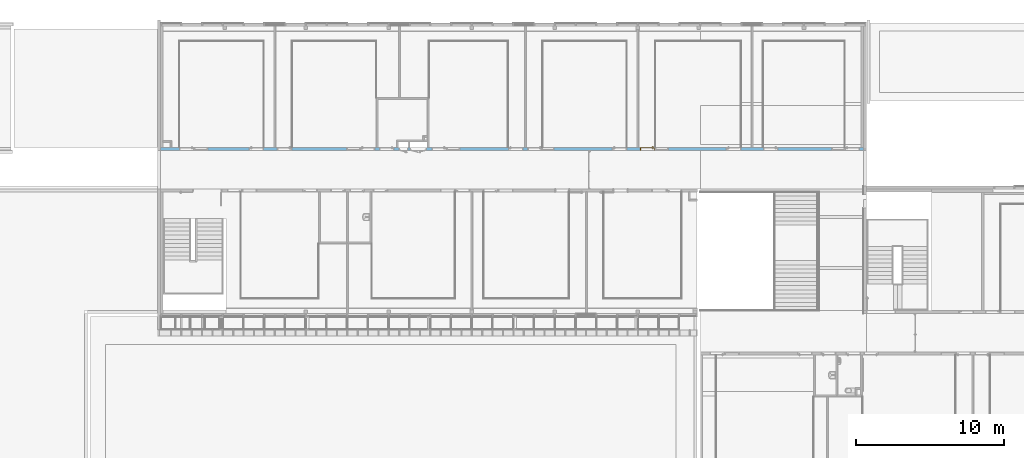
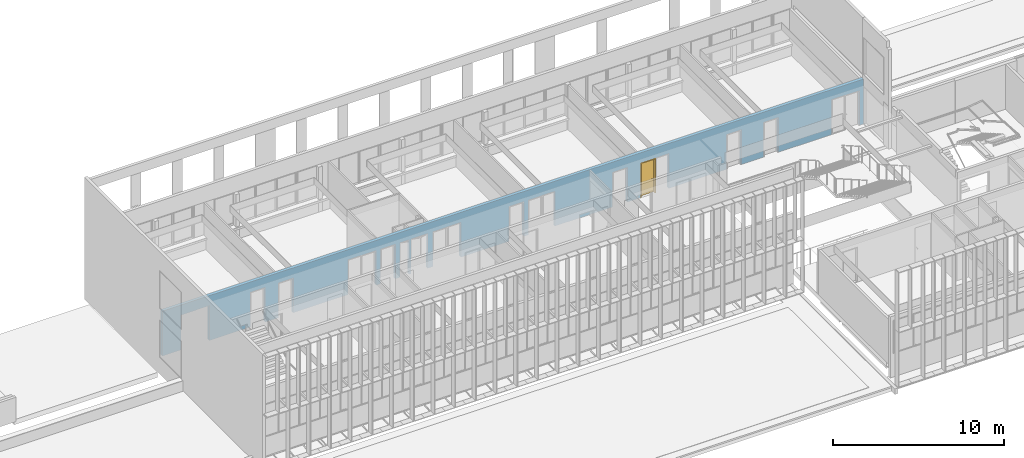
# One storey, part 57 of 106: 1 door, 21 openings, plus 1 element that does not belong to this part.
"""IFC2X3 building model written with IfcOpenShell, lengths in centimetres."""

import ifcopenshell
import ifcopenshell.guid

model = None  # the IFC model being written
_history = None  # IfcOwnerHistory: only IFC2X3 demands one
_inside = {}  # id of a spatial element -> (the spatial element, [elements in it])
_under = {}  # id of a project, library or spatial element -> (it, [spatial elements below it])
_declared = {}  # id of a project -> (the project, [libraries it declares])
_typed = {}  # id of a type object -> (the type object, [elements of that type])
_made_of = {}  # id of a material, layer set ... -> (it, [elements and type objects made of it])


def new_model(schema):
    """Start an empty IFC model of exactly this schema.

    Asked for "IFC4X3", IfcOpenShell would pick the latest addendum, in which some entities
    have other attributes; the version numbers below select the first issue.
    IFC2X3 requires an IfcOwnerHistory on every rooted entity: one is made here for all.
    """
    global model, _history
    if schema == "IFC4X3":
        model = ifcopenshell.file(schema_version=(4, 3, 0, 0))
    else:
        model = ifcopenshell.file(schema=schema)
    _inside.clear()
    _under.clear()
    _declared.clear()
    _typed.clear()
    _made_of.clear()
    _history = None
    if model.schema == "IFC2X3":
        org = make("IfcOrganization", Name="unknown")
        user = make(
            "IfcPersonAndOrganization",
            ThePerson=make("IfcPerson", FamilyName="unknown"),
            TheOrganization=org,
        )
        app = make(
            "IfcApplication",
            ApplicationDeveloper=org,
            Version="unknown",
            ApplicationFullName="unknown",
            ApplicationIdentifier="unknown",
        )
        _history = make(
            "IfcOwnerHistory",
            OwningUser=user,
            OwningApplication=app,
            ChangeAction="ADDED",
            CreationDate=0,
        )
    return model


def make(cls, **values):
    """One entity of the class cls with the attributes given. An attribute that is None is left unset."""
    return model.create_entity(
        cls, **{name: value for name, value in values.items() if value is not None}
    )


def entity(cls, *values):
    """Any entity or typed value of the class cls, its attributes in the order of the schema. None: left unset."""
    e = model.create_entity(cls)
    for i, value in enumerate(values):
        if value is not None:
            e[i] = value
    return e


def rooted(cls, **values):
    """An entity with a GlobalId (a new one), such as an element, a storey or a relation."""
    return make(cls, GlobalId=ifcopenshell.guid.new(), OwnerHistory=_history, **values)


def si_unit(unit_type, name, prefix=None):
    """IfcSIUnit, for example si_unit("LENGTHUNIT", "METRE", prefix="MILLI")."""
    return make("IfcSIUnit", UnitType=unit_type, Prefix=prefix, Name=name)


def converted_unit(unit_type, name, factor, base, dimensions=None, offset=None):
    """IfcConversionBasedUnit, such as the inch: factor (a typed value) times the base unit."""
    return make(
        "IfcConversionBasedUnit"
        if offset is None
        else "IfcConversionBasedUnitWithOffset",
        ConversionOffset=offset,
        Dimensions=None
        if dimensions is None
        else entity("IfcDimensionalExponents", *dimensions),
        UnitType=unit_type,
        Name=name,
        ConversionFactor=make(
            "IfcMeasureWithUnit", ValueComponent=factor, UnitComponent=base
        ),
    )


def derived_unit(unit_type, elements):
    """IfcDerivedUnit: a product of units, each with its exponent."""
    return make(
        "IfcDerivedUnit",
        Elements=[
            make("IfcDerivedUnitElement", Unit=unit, Exponent=power)
            for unit, power in elements
        ],
        UnitType=unit_type,
    )


def assignment(units):
    """IfcUnitAssignment: the units of a project."""
    return None if units is None else make("IfcUnitAssignment", Units=units)


def point(xyz):
    """IfcCartesianPoint."""
    return None if xyz is None else make("IfcCartesianPoint", Coordinates=xyz)


def direction(xyz):
    """IfcDirection."""
    return None if xyz is None else make("IfcDirection", DirectionRatios=xyz)


def frame(location, z_axis=None, x_axis=None):
    """IfcAxis2Placement3D, a coordinate frame: its origin and axes. An axis left out is left unset."""
    return make(
        "IfcAxis2Placement3D",
        Location=point(location),
        Axis=direction(z_axis),
        RefDirection=direction(x_axis),
    )


def frame_2d(location, x_axis=None):
    """IfcAxis2Placement2D, a coordinate frame in the plane: its origin and x axis."""
    return make(
        "IfcAxis2Placement2D", Location=point(location), RefDirection=direction(x_axis)
    )


def origin():
    """The frame at (0, 0, 0) with its axes left unset."""
    return frame((0.0, 0.0, 0.0))


def place(relative_to, where):
    """IfcLocalPlacement: puts the frame where relative to a parent placement (None: the world)."""
    return make(
        "IfcLocalPlacement", PlacementRelTo=relative_to, RelativePlacement=where
    )


def context(
    kind, dimensions, precision=None, world=None, true_north=None, identifier=None
):
    """IfcGeometricRepresentationContext, for example the 3D "Model" context."""
    return make(
        "IfcGeometricRepresentationContext",
        ContextIdentifier=identifier,
        ContextType=kind,
        CoordinateSpaceDimension=dimensions,
        Precision=precision,
        WorldCoordinateSystem=world,
        TrueNorth=true_north,
    )


def subcontext(parent, identifier, kind, view, scale=None):
    """IfcGeometricRepresentationSubContext, for example "Body" below "Model"."""
    return make(
        "IfcGeometricRepresentationSubContext",
        ContextIdentifier=identifier,
        ContextType=kind,
        ParentContext=parent,
        TargetScale=scale,
        TargetView=view,
    )


def project(units=None, contexts=None):
    """IfcProject with its units and contexts."""
    return rooted(
        "IfcProject",
        Name="project",
        RepresentationContexts=contexts,
        UnitsInContext=assignment(units),
    )


def spatial(cls, under=None, at=None, **own):
    """A site, building, storey or space (cls), placed at a placement, below another one or the project."""
    s = rooted(cls, ObjectPlacement=at, **own)
    if under is not None:
        _under.setdefault(under.id(), (under, []))[1].append(s)
    return s


def polyline(points):
    """IfcPolyline through the points."""
    return make("IfcPolyline", Points=[point(p) for p in points])


def profile(cls, at=None, kind="AREA", **sizes):
    """A parametric profile (cls). Its sizes go by their IFC names, for example OverallWidth=200.0."""
    return make(cls, ProfileType=kind, Position=at, **sizes)


def rectangle(**sizes):
    """IfcRectangleProfileDef."""
    return profile("IfcRectangleProfileDef", **sizes)


def extrude(swept, where, along, depth):
    """IfcExtrudedAreaSolid: the profile swept, set in the frame where, extruded along a direction by depth."""
    return make(
        "IfcExtrudedAreaSolid",
        SweptArea=swept,
        Position=where,
        ExtrudedDirection=direction(along),
        Depth=depth,
    )


def clip(a, b, op="DIFFERENCE"):
    """IfcBooleanClippingResult: the solid a cut by the half space b."""
    return make(
        "IfcBooleanClippingResult", Operator=op, FirstOperand=a, SecondOperand=b
    )


def bounded_halfspace(plane, agree, where, boundary):
    """IfcPolygonalBoundedHalfSpace: a half space limited to a polygon's prism."""
    return make(
        "IfcPolygonalBoundedHalfSpace",
        BaseSurface=make("IfcPlane", Position=plane),
        AgreementFlag=agree,
        Position=where,
        PolygonalBoundary=boundary,
    )


def faces_of(points, faces, orient=None, outer=None):
    """IfcFace entities. A face is a list of loops; a loop is a list of indices into points, from 0.

    orient and outer hold one flag for each loop. By default every Orientation is true, the
    first loop of a face is its IfcFaceOuterBound and the others are IfcFaceBound.
    """
    made = []
    for i, loops in enumerate(faces):
        bounds = []
        for j, loop in enumerate(loops):
            is_outer = j == 0 if outer is None else outer[i][j]
            bounds.append(
                make(
                    "IfcFaceOuterBound" if is_outer else "IfcFaceBound",
                    Bound=make("IfcPolyLoop", Polygon=[points[k] for k in loop]),
                    Orientation=True if orient is None else orient[i][j],
                )
            )
        made.append(make("IfcFace", Bounds=bounds))
    return made


def faceted_brep(points, faces, orient=None, outer=None, voids=None):
    """IfcFacetedBrep: a solid bounded by flat faces; with voids (closed shells), ...WithVoids."""
    shared = [point(p) for p in points]
    hull = make("IfcClosedShell", CfsFaces=faces_of(shared, faces, orient, outer))
    if voids is None:
        return make("IfcFacetedBrep", Outer=hull)
    return make(
        "IfcFacetedBrepWithVoids",
        Outer=hull,
        Voids=[
            make(cls, CfsFaces=faces_of(shared, fs, o, b)) for cls, fs, o, b in voids
        ],
    )


def shape(context_of_items, identifier, shape_type, items):
    """IfcShapeRepresentation: the items that make up one representation, for example the "Body"."""
    return make(
        "IfcShapeRepresentation",
        ContextOfItems=context_of_items,
        RepresentationIdentifier=identifier,
        RepresentationType=shape_type,
        Items=items,
    )


def source(mapping_origin, context_of_items, identifier, shape_type, items):
    """IfcRepresentationMap: a shape defined once, which mapped items show again and again."""
    return make(
        "IfcRepresentationMap",
        MappingOrigin=mapping_origin,
        MappedRepresentation=shape(context_of_items, identifier, shape_type, items),
    )


def transform(
    local_origin,
    x_axis=None,
    y_axis=None,
    z_axis=None,
    scale=None,
    scale2=None,
    scale3=None,
    uniform=True,
):
    """IfcCartesianTransformationOperator3D, or its non-uniform kind. x_axis, y_axis, z_axis: its Axis1, 2, 3."""
    if uniform:
        return make(
            "IfcCartesianTransformationOperator3D",
            Axis1=direction(x_axis),
            Axis2=direction(y_axis),
            LocalOrigin=point(local_origin),
            Scale=scale,
            Axis3=direction(z_axis),
        )
    return make(
        "IfcCartesianTransformationOperator3DnonUniform",
        Axis1=direction(x_axis),
        Axis2=direction(y_axis),
        LocalOrigin=point(local_origin),
        Scale=scale,
        Axis3=direction(z_axis),
        Scale2=scale2,
        Scale3=scale3,
    )


def mapped(mapping_source, mapping_target):
    """IfcMappedItem: shows the shape of a source again, moved by a transform."""
    return make(
        "IfcMappedItem", MappingSource=mapping_source, MappingTarget=mapping_target
    )


def material(Name=None, Category=None):
    """IfcMaterial."""
    return make("IfcMaterial", Name=Name, Category=Category)


def material_list(materials):
    """IfcMaterialList."""
    return make("IfcMaterialList", Materials=materials)


def layer(
    of_material, thickness, ventilated=None, Name=None, Category=None, Priority=None
):
    """IfcMaterialLayer: one layer of a wall or slab, of a material (None: an air gap)."""
    return make(
        "IfcMaterialLayer",
        Material=of_material,
        LayerThickness=thickness,
        IsVentilated=ventilated,
        Name=Name,
        Category=Category,
        Priority=Priority,
    )


def layer_set(layers, Name=None):
    """IfcMaterialLayerSet."""
    return make("IfcMaterialLayerSet", MaterialLayers=layers, LayerSetName=Name)


def layer_usage(for_layer_set, set_direction, sense, offset, extent=None):
    """IfcMaterialLayerSetUsage: how a layer set lies in its element."""
    return make(
        "IfcMaterialLayerSetUsage",
        ForLayerSet=for_layer_set,
        LayerSetDirection=set_direction,
        DirectionSense=sense,
        OffsetFromReferenceLine=offset,
        ReferenceExtent=extent,
    )


def made_of(thing, what):
    """Note that an element or type object is made of a material, layer set ...; save() writes the relation."""
    if what is not None:
        _made_of.setdefault(what.id(), (what, []))[1].append(thing)
    return thing


def type_object(cls, material=None, **own):
    """A type object (cls), such as IfcWallType, which elements share."""
    return made_of(rooted(cls, **own), material)


def type_shapes(of_type, sources):
    """Give a type object the sources (RepresentationMaps) that its elements show as mapped items."""
    of_type.RepresentationMaps = sources


def element(
    cls,
    number,
    at=None,
    inside=None,
    cuts=None,
    type_object=None,
    material=None,
    context=None,
    identifier="Body",
    shape_type=None,
    held_by="IfcProductDefinitionShape",
    body=None,
    shapes=None,
    **own,
):
    """One element of the class cls, such as IfcWall. Its Tag is "e" and its number.

    at: its placement. inside: the storey or other place that contains it. cuts: it is an
    opening in that element (IfcRelVoidsElement). A single representation is given by context,
    identifier, shape_type and body (its items); several are given by shapes. held_by: the class
    of the entity that holds the representations. save() writes the other relations.
    """
    e = rooted(cls, Tag="e%d" % number, ObjectPlacement=at, **own)
    if body is not None:
        shapes = [shape(context, identifier, shape_type, body)]
    if shapes is not None:
        e.Representation = make(held_by, Representations=shapes)
    if inside is not None:
        _inside.setdefault(inside.id(), (inside, []))[1].append(e)
    if cuts is not None:
        rooted(
            "IfcRelVoidsElement", RelatingBuildingElement=cuts, RelatedOpeningElement=e
        )
    if type_object is not None:
        _typed.setdefault(type_object.id(), (type_object, []))[1].append(e)
    return made_of(e, material)


def fill(opening, filler):
    """IfcRelFillsElement: the door or window that sits in an opening."""
    return rooted(
        "IfcRelFillsElement",
        RelatingOpeningElement=opening,
        RelatedBuildingElement=filler,
    )


def aggregate(whole, parts):
    """IfcRelAggregates: a whole, such as a stair, and the parts it consists of."""
    return rooted("IfcRelAggregates", RelatingObject=whole, RelatedObjects=parts)


def save(model, path):
    """Write the relations noted so far, then the file.

    IfcRelAggregates (storeys below a building ...), IfcRelContainedInSpatialStructure (elements
    in a storey), IfcRelDefinesByType, IfcRelAssociatesMaterial and IfcRelDeclares: one each for
    every whole, place, type object, material and project.
    """
    for whole, parts in _under.values():
        aggregate(whole, parts)
    for where, things in _inside.values():
        rooted(
            "IfcRelContainedInSpatialStructure",
            RelatedElements=things,
            RelatingStructure=where,
        )
    for kind, things in _typed.values():
        rooted("IfcRelDefinesByType", RelatedObjects=things, RelatingType=kind)
    for what, things in _made_of.values():
        rooted("IfcRelAssociatesMaterial", RelatedObjects=things, RelatingMaterial=what)
    for by, libraries in _declared.values():
        rooted("IfcRelDeclares", RelatingContext=by, RelatedDefinitions=libraries)
    model.write(path)


model = new_model("IFC2X3")

# Units and contexts
model_context = context("Model", 3, precision=0.001, world=origin(), true_north=direction((6.12303176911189e-17, 1.0)))
body_context = subcontext(model_context, "Body", "Model", "MODEL_VIEW")
ifc_project = project(units=[si_unit("LENGTHUNIT", "METRE", prefix="CENTI"), si_unit("AREAUNIT", "SQUARE_METRE"), si_unit("VOLUMEUNIT", "CUBIC_METRE"), converted_unit("PLANEANGLEUNIT", "DEGREE", entity("IfcRatioMeasure", 0.0174532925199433), si_unit("PLANEANGLEUNIT", "RADIAN"), dimensions=[0, 0, 0, 0, 0, 0, 0]), si_unit("MASSUNIT", "GRAM", prefix="KILO"), derived_unit("MASSDENSITYUNIT", [(si_unit("MASSUNIT", "GRAM", prefix="KILO"), 1), (si_unit("LENGTHUNIT", "METRE"), -3)]), si_unit("TIMEUNIT", "SECOND"), si_unit("FREQUENCYUNIT", "HERTZ"), si_unit("THERMODYNAMICTEMPERATUREUNIT", "DEGREE_CELSIUS"), derived_unit("THERMALTRANSMITTANCEUNIT", [(si_unit("MASSUNIT", "GRAM", prefix="KILO"), 1), (si_unit("THERMODYNAMICTEMPERATUREUNIT", "KELVIN"), -1), (si_unit("TIMEUNIT", "SECOND"), -3)]), derived_unit("VOLUMETRICFLOWRATEUNIT", [(si_unit("LENGTHUNIT", "METRE"), 3), (si_unit("TIMEUNIT", "SECOND"), -1)]), si_unit("ELECTRICCURRENTUNIT", "AMPERE"), si_unit("ELECTRICVOLTAGEUNIT", "VOLT"), si_unit("POWERUNIT", "WATT"), si_unit("FORCEUNIT", "NEWTON", prefix="KILO"), si_unit("ILLUMINANCEUNIT", "LUX"), si_unit("LUMINOUSFLUXUNIT", "LUMEN"), si_unit("LUMINOUSINTENSITYUNIT", "CANDELA"), derived_unit("USERDEFINED", [(si_unit("MASSUNIT", "GRAM", prefix="KILO"), -1), (si_unit("LENGTHUNIT", "METRE"), -2), (si_unit("TIMEUNIT", "SECOND"), 3), (si_unit("LUMINOUSFLUXUNIT", "LUMEN"), 1)]), derived_unit("LINEARVELOCITYUNIT", [(si_unit("LENGTHUNIT", "METRE"), 1), (si_unit("TIMEUNIT", "SECOND"), -1)]), si_unit("PRESSUREUNIT", "PASCAL"), derived_unit("USERDEFINED", [(si_unit("LENGTHUNIT", "METRE"), -2), (si_unit("MASSUNIT", "GRAM", prefix="KILO"), 1), (si_unit("TIMEUNIT", "SECOND"), -2)])], contexts=[model_context])

# Site, building, storey
site_placement = place(None, frame((-2781.94577612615, 7442.24238424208, 0.0)))
site = spatial("IfcSite", under=ifc_project, at=site_placement, Name="Default", CompositionType="ELEMENT")
building_placement = place(site_placement, origin())
building = spatial("IfcBuilding", under=site, at=building_placement, CompositionType="ELEMENT")
storey_placement = place(building_placement, frame((0.0, 0.0, 422.0)))
storey = spatial("IfcBuildingStorey", under=building, at=storey_placement, Name="Toiture - Cuisine", CompositionType="ELEMENT", Elevation=421.999999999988)

# Wall, openings, door
ifc_material_1 = material(Name="01 - Maçonnerie")
ifc_layer = layer(ifc_material_1, 20.0)
ifc_layer_set = layer_set([ifc_layer], Name="Mur de base:04 - Structure - béton - 20cm")
ifc_layer_usage = layer_usage(ifc_layer_set, "AXIS2", "NEGATIVE", 10.0)
wall_type = type_object("IfcWallType", Name="Mur de base:04 - Structure - béton - 20cm", PredefinedType="STANDARD", material=ifc_layer_set)
wall_placement = place(building_placement, frame((-8409.49987766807, -820.048500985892, 422.0)))
wall = element("IfcWallStandardCase", 1, at=wall_placement, inside=storey, type_object=wall_type, material=ifc_layer_usage, Name="Mur de base:04 - Structure - béton - 20cm", ObjectType="Mur de base:04 - Structure - béton - 20cm", context=body_context, shape_type="Clipping", body=[
    clip(extrude(rectangle(XDim=4741.49999798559, YDim=20.0, at=frame_2d((2370.74999899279, 2.04281036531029e-14), x_axis=(-1.0, 0.0))), origin(), (0.0, 0.0, 1.0), 321.0), bounded_halfspace(frame((4741.49999798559, -10.0, 321.0), z_axis=(0.0, 0.0, -1.0), x_axis=(0.0, 1.0, 0.0)), True, frame((4741.49999798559, -10.0, 321.0)), polyline([(0.0, 0.0), (0.0, 20.0), (-15.3000000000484, 20.0), (-125.300000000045, 20.0), (-127.300000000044, 20.0), (-675.800000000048, 20.0), (-677.800000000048, 20.0), (-745.800000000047, 20.0), (-755.800000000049, 20.0), (-825.800000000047, 20.0), (-827.800000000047, 20.0), (-1403.80000000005, 20.0), (-1405.80000000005, 20.0), (-1516.49999791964, 20.0), (-1526.49999791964, 20.0), (-1595.78709704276, 20.0), (-1597.78709704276, 20.0), (-2163.80000000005, 20.0), (-2165.80000000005, 20.0), (-2275.80000000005, 20.0), (-2285.80000000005, 20.0), (-2395.80000000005, 20.0), (-2397.80000000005, 20.0), (-2931.80000000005, 20.0), (-2941.80000000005, 20.0), (-3060.80000000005, 20.0), (-3070.80000000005, 20.0), (-3137.80000000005, 20.0), (-3147.80000000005, 20.0), (-3275.80000000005, 20.0), (-3285.80000000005, 20.0), (-3416.49999791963, 20.0), (-3535.80000000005, 20.0), (-3545.80000000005, 20.0), (-3611.80000000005, 20.0), (-3853.80000000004, 20.0), (-3855.80000000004, 20.0), (-3965.80000000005, 20.0), (-3975.80000000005, 20.0), (-4044.30000000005, 20.0), (-4046.30000000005, 20.0), (-4614.19999798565, 20.0), (-4616.19999798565, 20.0), (-4666.19999798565, 20.0), (-4676.19999798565, 20.0), (-4726.19999798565, 20.0), (-4741.49999798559, 20.0), (-4741.49999798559, 0.0), (-1854.0, 0.0), (-1844.0, 0.0), (-1840.0, 0.0), (0.0, 0.0)]))),
])
opening_1_placement = place(wall_placement, frame((1669.50000006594, 10.0, 0.0)))
element("IfcOpeningElement", 2, at=opening_1_placement, cuts=wall, Name="Int. Simple:PP Placard (0.55m x 2.50m):1", ObjectType="Opening", context=body_context, shape_type="SweptSolid", body=[
    extrude(rectangle(XDim=248.500000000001, YDim=61.9999999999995, at=frame_2d((124.250000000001, 30.9999999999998), x_axis=(1.0, 0.0))), frame((0.0, 0.0, 0.0), z_axis=(0.0, -1.0, 0.0), x_axis=(0.0, 0.0, 1.0)), (0.0, 0.0, 1.0), 20.0),
])
opening_2_placement = place(wall_placement, frame((1794.50000006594, 10.0, 0.0)))
element("IfcOpeningElement", 3, at=opening_2_placement, cuts=wall, Name="Int. Double:PP Placard (1.05m x 2.50m):1", ObjectType="Opening", context=body_context, shape_type="SweptSolid", body=[
    extrude(rectangle(XDim=248.500000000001, YDim=112.0, at=frame_2d((124.250000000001, 56.0000000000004), x_axis=(1.0, 0.0))), frame((0.0, 0.0, 0.0), z_axis=(0.0, -1.0, 0.0), x_axis=(0.0, 0.0, 1.0)), (0.0, 0.0, 1.0), 20.0),
])
opening_3_placement = place(wall_placement, frame((126.799999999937, -10.0, 0.0)))
element("IfcOpeningElement", 4, at=opening_3_placement, cuts=wall, Name="Int. Simple:PV (0.93m x 2.50m):1", ObjectType="Opening", context=body_context, shape_type="SweptSolid", body=[
    extrude(rectangle(XDim=248.500000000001, YDim=99.9999999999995, at=frame_2d((124.250000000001, 50.0), x_axis=(1.0, 0.0))), frame((0.0, 0.0, 0.0), z_axis=(0.0, 1.0, 0.0), x_axis=(0.0, 0.0, 1.0)), (0.0, 0.0, 1.0), 20.0),
])
opening_4_placement = place(wall_placement, frame((595.699997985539, -10.0, 0.0)))
element("IfcOpeningElement", 5, at=opening_4_placement, cuts=wall, Name="Int. Simple:PV (0.93m x 2.50m):1", ObjectType="Opening", context=body_context, shape_type="SweptSolid", body=[
    extrude(rectangle(XDim=248.500000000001, YDim=99.9999999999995, at=frame_2d((124.250000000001, 49.9999999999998), x_axis=(1.0, 0.0))), frame((0.0, 0.0, 0.0), z_axis=(0.0, 1.0, 0.0), x_axis=(0.0, 0.0, 1.0)), (0.0, 0.0, 1.0), 20.0),
])
opening_5_placement = place(wall_placement, frame((785.699997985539, -10.0, 0.0)))
element("IfcOpeningElement", 6, at=opening_5_placement, cuts=wall, Name="Int. Simple:PV (0.93m x 2.50m):1", ObjectType="Opening", context=body_context, shape_type="SweptSolid", body=[
    extrude(rectangle(XDim=248.500000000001, YDim=99.9999999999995, at=frame_2d((124.250000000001, 50.0), x_axis=(1.0, 0.0))), frame((0.0, 0.0, 0.0), z_axis=(0.0, 1.0, 0.0), x_axis=(0.0, 0.0, 1.0)), (0.0, 0.0, 1.0), 20.0),
])
opening_6_placement = place(wall_placement, frame((1345.69999798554, -10.0, 0.0)))
element("IfcOpeningElement", 7, at=opening_6_placement, cuts=wall, Name="Int. Simple:PV (0.93m x 2.50m):1", ObjectType="Opening", context=body_context, shape_type="SweptSolid", body=[
    extrude(rectangle(XDim=248.500000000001, YDim=99.9999999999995, at=frame_2d((124.250000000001, 49.9999999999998), x_axis=(1.0, 0.0))), frame((0.0, 0.0, 0.0), z_axis=(0.0, 1.0, 0.0), x_axis=(0.0, 0.0, 1.0)), (0.0, 0.0, 1.0), 20.0),
])
opening_7_placement = place(wall_placement, frame((1475.69999798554, -10.0, 0.0)))
element("IfcOpeningElement", 8, at=opening_7_placement, cuts=wall, Name="Int. Simple:PP simple (0.93m x 2.50m):1", ObjectType="Opening", context=body_context, shape_type="SweptSolid", body=[
    extrude(rectangle(XDim=248.500000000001, YDim=99.9999999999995, at=frame_2d((124.250000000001, 50.0), x_axis=(1.0, 0.0))), frame((0.0, 0.0, 0.0), z_axis=(0.0, 1.0, 0.0), x_axis=(0.0, 0.0, 1.0)), (0.0, 0.0, 1.0), 20.0),
])
opening_8_placement = place(wall_placement, frame((1829.69999798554, -10.0, 0.0)))
element("IfcOpeningElement", 9, at=opening_8_placement, cuts=wall, Name="Int. Simple:PV (0.93m x 2.50m):1", ObjectType="Opening", context=body_context, shape_type="SweptSolid", body=[
    extrude(rectangle(XDim=248.500000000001, YDim=99.9999999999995, at=frame_2d((124.250000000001, 50.0), x_axis=(1.0, 0.0))), frame((0.0, 0.0, 0.0), z_axis=(0.0, 1.0, 0.0), x_axis=(0.0, 0.0, 1.0)), (0.0, 0.0, 1.0), 20.0),
])
opening_9_placement = place(wall_placement, frame((2345.69999798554, -10.0, 0.0)))
element("IfcOpeningElement", 10, at=opening_9_placement, cuts=wall, Name="Int. Simple:PV (0.93m x 2.50m):1", ObjectType="Opening", context=body_context, shape_type="SweptSolid", body=[
    extrude(rectangle(XDim=248.500000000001, YDim=99.9999999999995, at=frame_2d((124.250000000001, 49.9999999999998), x_axis=(1.0, 0.0))), frame((0.0, 0.0, 0.0), z_axis=(0.0, 1.0, 0.0), x_axis=(0.0, 0.0, 1.0)), (0.0, 0.0, 1.0), 20.0),
])
opening_10_placement = place(wall_placement, frame((2475.69999798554, -10.0, 0.0)))
element("IfcOpeningElement", 11, at=opening_10_placement, cuts=wall, Name="Int. Simple:PV (0.93m x 2.50m):1", ObjectType="Opening", context=body_context, shape_type="SweptSolid", body=[
    extrude(rectangle(XDim=248.500000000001, YDim=99.9999999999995, at=frame_2d((124.250000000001, 50.0), x_axis=(1.0, 0.0))), frame((0.0, 0.0, 0.0), z_axis=(0.0, 1.0, 0.0), x_axis=(0.0, 0.0, 1.0)), (0.0, 0.0, 1.0), 20.0),
])
opening_11_placement = place(wall_placement, frame((3045.69999798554, -10.0, 0.0)))
element("IfcOpeningElement", 12, at=opening_11_placement, cuts=wall, Name="Int. Simple:PV (0.93m x 2.50m):1", ObjectType="Opening", context=body_context, shape_type="SweptSolid", body=[
    extrude(rectangle(XDim=248.500000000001, YDim=99.9999999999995, at=frame_2d((124.250000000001, 49.9999999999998), x_axis=(1.0, 0.0))), frame((0.0, 0.0, 0.0), z_axis=(0.0, 1.0, 0.0), x_axis=(0.0, 0.0, 1.0)), (0.0, 0.0, 1.0), 20.0),
])
opening_12_placement = place(wall_placement, frame((3235.69999798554, -10.0, 0.0)))
opening_12 = element("IfcOpeningElement", 13, at=opening_12_placement, cuts=wall, Name="Int. Simple:PV (0.93m x 2.50m):1", ObjectType="Opening", context=body_context, shape_type="SweptSolid", body=[
    extrude(rectangle(XDim=248.500000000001, YDim=99.9999999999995, at=frame_2d((124.250000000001, 50.0), x_axis=(1.0, 0.0))), frame((0.0, 0.0, 0.0), z_axis=(0.0, 1.0, 0.0), x_axis=(0.0, 0.0, 1.0)), (0.0, 0.0, 1.0), 20.0),
])
opening_13_placement = place(wall_placement, frame((3815.69999798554, -10.0, 0.0)))
element("IfcOpeningElement", 14, at=opening_13_placement, cuts=wall, Name="Int. Simple:PV (0.93m x 2.50m):1", ObjectType="Opening", context=body_context, shape_type="SweptSolid", body=[
    extrude(rectangle(XDim=248.500000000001, YDim=99.9999999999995, at=frame_2d((124.250000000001, 49.9999999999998), x_axis=(1.0, 0.0))), frame((0.0, 0.0, 0.0), z_axis=(0.0, 1.0, 0.0), x_axis=(0.0, 0.0, 1.0)), (0.0, 0.0, 1.0), 20.0),
])
opening_14_placement = place(wall_placement, frame((4065.69999798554, -10.0, 0.0)))
element("IfcOpeningElement", 15, at=opening_14_placement, cuts=wall, Name="Int. Simple:PV (0.93m x 2.50m):1", ObjectType="Opening", context=body_context, shape_type="SweptSolid", body=[
    extrude(rectangle(XDim=248.500000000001, YDim=99.9999999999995, at=frame_2d((124.250000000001, 50.0), x_axis=(1.0, 0.0))), frame((0.0, 0.0, 0.0), z_axis=(0.0, 1.0, 0.0), x_axis=(0.0, 0.0, 1.0)), (0.0, 0.0, 1.0), 20.0),
])
opening_15_placement = place(wall_placement, frame((4616.19999798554, -10.0, 0.0)))
element("IfcOpeningElement", 16, at=opening_15_placement, cuts=wall, Name="Int. Simple:PV (0.93m x 2.50m):1", ObjectType="Opening", context=body_context, shape_type="SweptSolid", body=[
    extrude(rectangle(XDim=248.500000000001, YDim=99.9999999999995, at=frame_2d((124.250000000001, 49.9999999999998), x_axis=(1.0, 0.0))), frame((0.0, 0.0, 0.0), z_axis=(0.0, 1.0, 0.0), x_axis=(0.0, 0.0, 1.0)), (0.0, 0.0, 1.0), 20.0),
])
opening_16_placement = place(wall_placement, frame((1255.69999798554, -10.0, 0.0)))
element("IfcOpeningElement", 17, at=opening_16_placement, cuts=wall, Name="châssis intérieur vitré:châssis intérieur vitré (h=270) R+1:1", ObjectType="Opening", context=body_context, shape_type="SweptSolid", body=[
    extrude(rectangle(XDim=250.0, YDim=89.9999999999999, at=frame_2d((125.0, 45.0), x_axis=(1.0, 0.0))), frame((0.0, 0.0, 0.0), z_axis=(0.0, 1.0, 0.0), x_axis=(0.0, 0.0, 1.0)), (0.0, 0.0, 1.0), 20.0),
])
opening_17_placement = place(wall_placement, frame((1929.69999798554, -10.0, 0.0)))
element("IfcOpeningElement", 18, at=opening_17_placement, cuts=wall, Name="châssis intérieur vitré:châssis intérieur vitré (h=270) R+1:1", ObjectType="Opening", context=body_context, shape_type="SweptSolid", body=[
    extrude(rectangle(XDim=250.0, YDim=89.9999999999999, at=frame_2d((125.0, 45.0), x_axis=(1.0, 0.0))), frame((0.0, 0.0, 0.0), z_axis=(0.0, 1.0, 0.0), x_axis=(0.0, 0.0, 1.0)), (0.0, 0.0, 1.0), 20.0),
])
opening_18_placement = place(wall_placement, frame((4526.19999798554, -10.0, 0.0)))
element("IfcOpeningElement", 19, at=opening_18_placement, cuts=wall, Name="châssis intérieur vitré:châssis intérieur vitré (h=270) R+1:1", ObjectType="Opening", context=body_context, shape_type="SweptSolid", body=[
    extrude(rectangle(XDim=250.0, YDim=89.9999999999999, at=frame_2d((125.0, 45.0000000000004), x_axis=(1.0, 0.0))), frame((0.0, 0.0, 0.0), z_axis=(0.0, 1.0, 0.0), x_axis=(0.0, 0.0, 1.0)), (0.0, 0.0, 1.0), 20.0),
])
opening_19_placement = place(wall_placement, frame((3335.69999798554, -10.0, 0.0)))
element("IfcOpeningElement", 20, at=opening_19_placement, cuts=wall, Name="châssis intérieur vitré:châssis intérieur vitré (h=270) R+1:1", ObjectType="Opening", context=body_context, shape_type="SweptSolid", body=[
    extrude(rectangle(XDim=250.0, YDim=89.9999999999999, at=frame_2d((125.0, 45.0000000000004), x_axis=(1.0, 0.0))), frame((0.0, 0.0, 0.0), z_axis=(0.0, 1.0, 0.0), x_axis=(0.0, 0.0, 1.0)), (0.0, 0.0, 1.0), 20.0),
])
opening_20_placement = place(wall_placement, frame((2565.69999798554, -10.0, 0.0)))
element("IfcOpeningElement", 21, at=opening_20_placement, cuts=wall, Name="châssis intérieur vitré:châssis intérieur vitré (h=270) R+1:1", ObjectType="Opening", context=body_context, shape_type="SweptSolid", body=[
    extrude(rectangle(XDim=250.0, YDim=89.9999999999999, at=frame_2d((125.0, 45.0000000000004), x_axis=(1.0, 0.0))), frame((0.0, 0.0, 0.0), z_axis=(0.0, 1.0, 0.0), x_axis=(0.0, 0.0, 1.0)), (0.0, 0.0, 1.0), 20.0),
])
opening_21_placement = place(wall_placement, frame((226.799999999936, -10.0, 0.0)))
element("IfcOpeningElement", 22, at=opening_21_placement, cuts=wall, Name="châssis intérieur vitré:châssis intérieur vitré (h=270) R+1:1", ObjectType="Opening", context=body_context, shape_type="SweptSolid", body=[
    extrude(rectangle(XDim=250.0, YDim=91.4999999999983, at=frame_2d((125.0, 45.7499999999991), x_axis=(1.0, 0.0))), frame((0.0, 0.0, 0.0), z_axis=(0.0, 1.0, 0.0), x_axis=(0.0, 0.0, 1.0)), (0.0, 0.0, 1.0), 20.0),
])
ifc_material_2 = material(Name="Finition Peinture - Blanc satiné")
ifc_material_3 = material(Name="Bois - Panneau de porte")
ifc_material_4 = material(Name="Bois - Cadre de porte")
ifc_material_list_1 = material_list([ifc_material_2, ifc_material_3, ifc_material_4])
ifc_material_list_2 = material_list([ifc_material_2, ifc_material_3, ifc_material_4])
door_style = type_object("IfcDoorStyle", Name="PV (0.93m x 2.50m)", ConstructionType="NOTDEFINED", OperationType="SINGLE_SWING_LEFT", ParameterTakesPrecedence=False, Sizeable=False, material=ifc_material_list_2)
shared_shape = source(origin(), body_context, "Body", "Brep", [
    faceted_brep([(10.5352761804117, -0.500000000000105, 86.6003983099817), (11.5000000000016, -0.500000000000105, 87.0), (11.5000000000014, -0.500000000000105, 108.0), (10.5352761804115, -0.500000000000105, 108.399601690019), (9.50000000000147, -0.500000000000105, 108.535898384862), (8.46472381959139, -0.500000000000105, 108.399601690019), (7.50000000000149, -0.500000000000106, 108.0), (7.50000000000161, -0.500000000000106, 87.0), (8.46472381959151, -0.500000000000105, 86.6003983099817), (9.50000000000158, -0.500000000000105, 86.464101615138), (10.5352761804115, 0.0, 108.399601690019), (11.5000000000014, 0.0, 108.0), (11.5000000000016, 0.0, 87.0), (10.5352761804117, 0.0, 86.6003983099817), (9.50000000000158, 0.0, 86.464101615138), (8.46472381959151, 0.0, 86.6003983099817), (7.50000000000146, 0.0, 87.0), (7.50000000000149, 0.0, 108.0), (8.46472381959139, 0.0, 108.399601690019), (9.50000000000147, 0.0, 108.535898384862)], [[[0, 1, 2, 3, 4, 5, 6, 7, 8, 9]], [[10, 11, 12, 13, 14, 15, 16, 17, 18, 19]], [[16, 15, 8, 7]], [[8, 15, 14, 9]], [[14, 13, 0, 9]], [[13, 12, 1, 0]], [[2, 1, 12, 11]], [[11, 10, 3, 2]], [[3, 10, 19, 4]], [[19, 18, 5, 4]], [[18, 17, 6, 5]], [[7, 6, 17, 16]]]),
    faceted_brep([(10.5352761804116, 4.0, 86.6003983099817), (11.5000000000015, 4.0, 87.0), (11.5000000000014, 4.0, 108.0), (10.5352761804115, 4.0, 108.399601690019), (9.50000000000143, 4.0, 108.535898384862), (8.46472381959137, 4.0, 108.399601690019), (7.50000000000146, 4.0, 108.0), (7.50000000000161, 4.0, 87.0), (8.46472381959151, 4.0, 86.6003983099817), (9.50000000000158, 4.0, 86.464101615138), (10.5352761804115, 4.49999999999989, 108.399601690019), (11.5000000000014, 4.49999999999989, 108.0), (11.5000000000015, 4.49999999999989, 87.0), (10.5352761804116, 4.49999999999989, 86.6003983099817), (9.50000000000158, 4.49999999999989, 86.464101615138), (8.46472381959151, 4.49999999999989, 86.6003983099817), (7.50000000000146, 4.49999999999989, 87.0), (7.50000000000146, 4.49999999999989, 108.0), (8.46472381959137, 4.49999999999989, 108.399601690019), (9.50000000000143, 4.49999999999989, 108.535898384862)], [[[0, 1, 2, 3, 4, 5, 6, 7, 8, 9]], [[10, 11, 12, 13, 14, 15, 16, 17, 18, 19]], [[11, 10, 3, 2]], [[3, 10, 19, 4]], [[19, 18, 5, 4]], [[18, 17, 6, 5]], [[7, 6, 17, 16]], [[16, 15, 8, 7]], [[8, 15, 14, 9]], [[14, 13, 0, 9]], [[13, 12, 1, 0]], [[2, 1, 12, 11]]]),
    faceted_brep([(9.29747013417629, -0.500000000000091, 100.778044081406), (9.70252986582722, -0.500000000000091, 100.778044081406), (10.1000000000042, -0.500000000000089, 100.699999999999), (10.1000000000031, -0.500000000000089, 99.3000000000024), (9.7025298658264, -0.500000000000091, 99.2219559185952), (9.29747013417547, -0.500000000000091, 99.221955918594), (8.8999999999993, -0.500000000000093, 99.2999999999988), (8.89999999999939, -0.500000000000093, 100.7), (8.89999999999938, -3.26509507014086, 100.7), (9.29747013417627, -3.10045754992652, 100.778044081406), (10.9023585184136, -4.70534593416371, 100.778044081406), (11.0701397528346, -4.30028620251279, 100.778044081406), (9.7025298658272, -2.93267631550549, 100.778044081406), (10.1000000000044, -2.76803879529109, 100.7), (10.1000000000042, -2.76803879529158, 99.3000000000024), (9.7025298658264, -2.93267631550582, 99.2219559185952), (11.0701397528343, -4.30028620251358, 99.2219559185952), (10.9023585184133, -4.70534593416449, 99.221955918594), (9.29747013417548, -3.10045754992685, 99.221955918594), (8.89999999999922, -3.26509507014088, 99.2999999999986), (10.7377209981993, -5.10281606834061, 100.7), (11.2347772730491, -3.90281606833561, 100.7), (11.2347772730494, -3.90281606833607, 99.3000000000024), (10.7377209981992, -5.10281606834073, 99.2999999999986), (19.5018640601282, -5.1028160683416, 99.2999999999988), (19.5018640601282, -4.70534593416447, 99.221955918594), (19.5018640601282, -4.30028620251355, 99.2219559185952), (19.5018640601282, -3.90281606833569, 99.3000000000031), (19.5018640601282, -3.90281606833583, 100.7), (19.5018640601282, -4.30028620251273, 100.778044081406), (19.5018640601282, -4.70534593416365, 100.778044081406), (19.5018640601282, -5.10281606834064, 100.699999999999), (14.7307697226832, -5.10281606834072, 100.7), (15.2860019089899, -4.5028160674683, 100.78786867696), (15.3683206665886, -3.9028160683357, 100.7), (15.3683206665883, -3.90281606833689, 99.3000000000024), (15.2860018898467, -4.50281607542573, 99.2121313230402), (14.7307700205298, -5.10281606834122, 99.2999999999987)], [[[0, 1, 2, 3, 4, 5, 6, 7]], [[8, 9, 0, 7]], [[9, 10, 11, 12, 1, 0]], [[12, 13, 2, 1]], [[3, 2, 13, 14]], [[14, 15, 4, 3]], [[15, 16, 17, 18, 5, 4]], [[18, 19, 6, 5]], [[7, 6, 19, 8]], [[20, 10, 9, 8]], [[11, 21, 13, 12]], [[14, 13, 21, 22]], [[22, 16, 15, 14]], [[17, 23, 19, 18]], [[8, 19, 23, 20]], [[24, 25, 26, 27, 28, 29, 30, 31]], [[32, 30, 33]], [[31, 30, 32]], [[10, 20, 32]], [[33, 34, 11]], [[21, 11, 34]], [[34, 29, 28]], [[30, 29, 33]], [[29, 34, 33]], [[10, 32, 33]], [[10, 33, 11]], [[22, 21, 34, 28, 27, 35]], [[35, 26, 36]], [[37, 36, 25]], [[22, 35, 16]], [[35, 27, 26]], [[24, 37, 25]], [[23, 17, 37]], [[37, 17, 36]], [[17, 16, 36]], [[16, 35, 36]], [[25, 36, 26]], [[20, 23, 37, 24, 31, 32]]]),
    faceted_brep([(9.29747013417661, 4.49999999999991, 100.778044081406), (8.89999999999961, 4.4999999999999, 100.7), (8.89999999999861, 4.4999999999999, 99.2999999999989), (9.29747013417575, 4.49999999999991, 99.221955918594), (9.70252986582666, 4.49999999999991, 99.2219559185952), (10.1000000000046, 4.49999999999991, 99.3000000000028), (10.1000000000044, 4.49999999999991, 100.7), (9.70252986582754, 4.49999999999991, 100.778044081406), (10.1000000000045, 6.7485204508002, 99.3000000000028), (10.1000000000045, 6.74852045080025, 100.7), (9.70252986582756, 6.91315797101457, 100.778044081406), (11.083890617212, 8.29451872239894, 100.778044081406), (10.916109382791, 8.69957845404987, 100.778044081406), (9.29747013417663, 7.0809392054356, 100.778044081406), (8.89999999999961, 7.24557672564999, 100.7), (8.89999999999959, 7.2455767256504, 99.2999999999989), (9.29747013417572, 7.08093920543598, 99.221955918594), (10.9161093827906, 8.69957845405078, 99.221955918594), (11.0838906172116, 8.29451872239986, 99.2219559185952), (9.70252986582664, 6.91315797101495, 99.2219559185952), (11.2485281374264, 7.89704858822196, 99.3000000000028), (11.2485281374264, 7.89704858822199, 100.7), (10.7514718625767, 9.09704858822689, 100.7), (10.7514718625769, 9.0970485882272, 99.2999999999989), (19.5045783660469, 7.89704858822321, 99.3000000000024), (19.5045783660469, 8.29451872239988, 99.2219559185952), (19.5045783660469, 8.6995784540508, 99.221955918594), (19.5045783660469, 9.09704858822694, 99.2999999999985), (19.5045783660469, 9.09704858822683, 100.7), (19.5045783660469, 8.69957845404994, 100.778044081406), (19.5045783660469, 8.29451872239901, 100.778044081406), (19.5045783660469, 7.89704858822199, 100.7), (15.3765520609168, 7.89704858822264, 99.3000000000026), (15.3765532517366, 7.89704858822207, 100.7), (15.294234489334, 8.49704858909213, 100.78786867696), (14.7445205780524, 9.09704858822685, 100.7), (14.7445204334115, 9.09704858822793, 99.2999999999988), (15.2942345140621, 8.49704858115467, 99.2121313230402)], [[[0, 1, 2, 3, 4, 5, 6, 7]], [[6, 5, 8, 9]], [[9, 10, 7, 6]], [[10, 11, 12, 13, 0, 7]], [[13, 14, 1, 0]], [[2, 1, 14, 15]], [[15, 16, 3, 2]], [[16, 17, 18, 19, 4, 3]], [[19, 8, 5, 4]], [[9, 8, 20, 21]], [[21, 11, 10, 9]], [[12, 22, 14, 13]], [[15, 14, 22, 23]], [[23, 17, 16, 15]], [[18, 20, 8, 19]], [[24, 25, 26, 27, 28, 29, 30, 31]], [[21, 20, 32, 24, 31, 33]], [[33, 30, 34]], [[35, 34, 29]], [[21, 33, 11]], [[33, 31, 30]], [[28, 35, 29]], [[22, 12, 35]], [[35, 12, 34]], [[12, 11, 34]], [[11, 33, 34]], [[29, 34, 30]], [[22, 35, 28, 27, 36, 23]], [[36, 26, 37]], [[27, 26, 36]], [[17, 23, 36]], [[37, 32, 18]], [[20, 18, 32]], [[32, 25, 24]], [[26, 25, 37]], [[25, 32, 37]], [[17, 36, 37]], [[17, 37, 18]]]),
    faceted_brep([(3.50000000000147, 4.0, 245.0), (96.5000000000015, 4.0, 245.0), (96.5000000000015, 4.0, 0.0), (3.50000000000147, 4.0, 0.0), (3.50000000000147, 0.0, 245.0), (3.50000000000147, 0.0, 0.0), (96.5000000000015, 0.0, 0.0), (96.5000000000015, 0.0, 245.0)], [[[0, 1, 2, 3]], [[4, 5, 6, 7]], [[1, 0, 4, 7]], [[2, 1, 7, 6]], [[3, 2, 6, 5]], [[0, 3, 5, 4]]]),
    faceted_brep([(0.0, 20.0, 0.0), (-1.50000000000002, 20.0, 0.0), (-1.50000000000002, 20.5000000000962, 0.0), (5.0, 20.5000000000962, 0.0), (5.0, 4.0, 0.0), (3.50000000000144, 4.0, 0.0), (3.50000000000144, -0.500000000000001, 0.0), (-1.50000000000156, -0.500000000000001, 0.0), (-1.50000000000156, 0.0, 0.0), (0.0, 0.0, 0.0), (0.0, 20.0, 248.500000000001), (100.0, 20.0, 248.500000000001), (100.0, 20.0, 0.0), (101.5, 20.0, 0.0), (101.5, 20.0, 250.0), (-1.50000000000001, 20.0, 250.0), (-1.50000000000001, 20.5000000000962, 250.0), (101.5, 20.5000000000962, 250.0), (101.5, 20.5000000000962, 0.0), (95.0, 20.5000000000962, 0.0), (95.0, 20.5000000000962, 243.5), (5.0, 20.5000000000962, 243.5), (5.0, 4.0, 243.5), (95.0, 4.0, 243.5), (95.0, 4.0, 0.0), (96.499999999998, 4.0, 0.0), (96.499999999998, 4.0, 245.0), (3.50000000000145, 4.0, 245.0), (3.50000000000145, -0.500000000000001, 245.0), (96.499999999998, -0.500000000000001, 245.0), (96.499999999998, -0.500000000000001, 0.0), (101.500000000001, -0.500000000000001, 0.0), (101.500000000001, -0.500000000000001, 250.0), (-1.50000000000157, -0.500000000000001, 250.0), (-1.50000000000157, 0.0, 250.0), (101.500000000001, 0.0, 250.0), (101.500000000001, 0.0, 0.0), (100.0, 0.0, 0.0), (100.0, 0.0, 248.500000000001), (0.0, 0.0, 248.500000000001)], [[[0, 1, 2, 3, 4, 5, 6, 7, 8, 9]], [[1, 0, 10, 11, 12, 13, 14, 15]], [[2, 1, 15, 16]], [[3, 2, 16, 17, 18, 19, 20, 21]], [[3, 21, 22, 4]], [[5, 4, 22, 23, 24, 25, 26, 27]], [[5, 27, 28, 6]], [[7, 6, 28, 29, 30, 31, 32, 33]], [[8, 7, 33, 34]], [[9, 8, 34, 35, 36, 37, 38, 39]], [[0, 9, 39, 10]], [[11, 38, 37, 12]], [[12, 37, 36, 31, 30, 25, 24, 19, 18, 13]], [[17, 14, 13, 18]], [[23, 20, 19, 24]], [[29, 26, 25, 30]], [[35, 32, 31, 36]], [[16, 15, 14, 17]], [[22, 21, 20, 23]], [[28, 27, 26, 29]], [[34, 33, 32, 35]], [[10, 39, 38, 11]]]),
])
type_shapes(door_style, [shared_shape])
door_placement = place(opening_12_placement, frame((100.0, 20.0, 0.0), z_axis=(0.0, 0.0, 1.0), x_axis=(-1.0, 0.0, 0.0)))
door = element("IfcDoor", 23, at=door_placement, inside=storey, type_object=door_style, material=ifc_material_list_1, Name="Int. Simple:PV (0.93m x 2.50m)", ObjectType="Int. Simple:PV (0.93m x 2.50m)", OverallHeight=248.500000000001, OverallWidth=99.9999999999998, context=body_context, shape_type="MappedRepresentation", body=[
    mapped(shared_shape, transform((0.0, 0.0, 0.0), scale=1.0)),
])
fill(opening_12, door)

save(model, "model.ifc")
